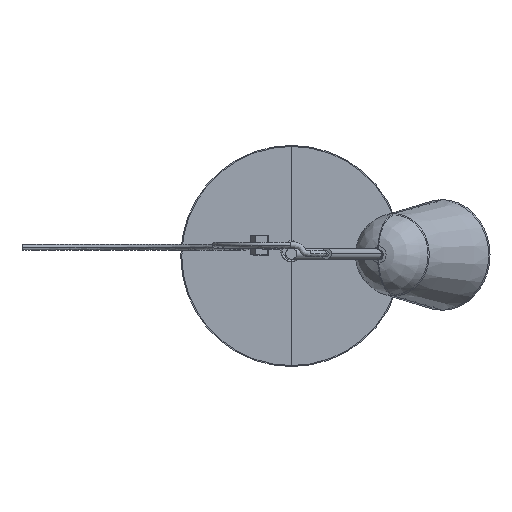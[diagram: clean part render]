
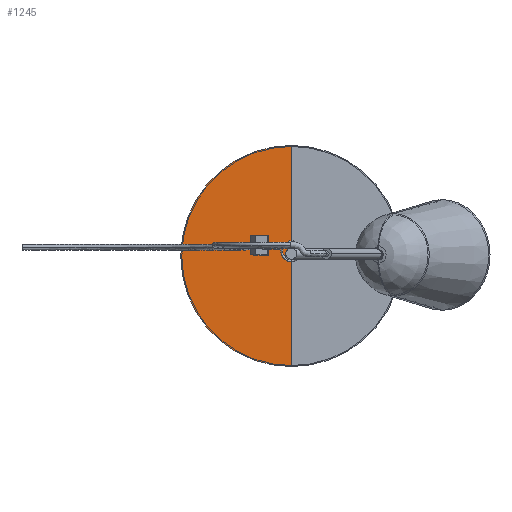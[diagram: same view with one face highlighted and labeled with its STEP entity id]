
A CAD part, top view. The second image highlights one B-rep face of the part: STEP entity #1245.
In plain terms, the highlighted planar face has unit normal (0, 0, 1).
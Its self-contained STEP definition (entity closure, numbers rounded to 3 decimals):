
#117=CIRCLE('',#1366,5.5);
#119=CIRCLE('',#1369,5.5);
#128=CIRCLE('',#1385,110.);
#212=LINE('',#63402,#280);
#213=LINE('',#63403,#281);
#280=VECTOR('',#1717,304.8);
#281=VECTOR('',#1718,304.8);
#321=PLANE('',#1387);
#405=FACE_OUTER_BOUND('',#492,.T.);
#492=EDGE_LOOP('',(#1147,#1148,#1149,#1150,#1151));
#629=VERTEX_POINT('',#63362);
#630=VERTEX_POINT('',#63364);
#631=VERTEX_POINT('',#63369);
#638=VERTEX_POINT('',#63394);
#639=VERTEX_POINT('',#63395);
#790=EDGE_CURVE('',#630,#629,#117,.T.);
#793=EDGE_CURVE('',#631,#630,#119,.T.);
#808=EDGE_CURVE('',#639,#638,#128,.T.);
#809=EDGE_CURVE('',#629,#639,#212,.T.);
#810=EDGE_CURVE('',#638,#631,#213,.T.);
#1147=ORIENTED_EDGE('',*,*,#808,.T.);
#1148=ORIENTED_EDGE('',*,*,#810,.T.);
#1149=ORIENTED_EDGE('',*,*,#793,.T.);
#1150=ORIENTED_EDGE('',*,*,#790,.T.);
#1151=ORIENTED_EDGE('',*,*,#809,.T.);
#1245=ADVANCED_FACE('',(#405),#321,.F.);
#1366=AXIS2_PLACEMENT_3D('',#63365,#1668,#1669);
#1369=AXIS2_PLACEMENT_3D('',#63370,#1675,#1676);
#1385=AXIS2_PLACEMENT_3D('',#63400,#1713,#1714);
#1387=AXIS2_PLACEMENT_3D('',#63404,#1719,#1720);
#1668=DIRECTION('center_axis',(0.,0.,-1.));
#1669=DIRECTION('ref_axis',(1.,0.,0.));
#1675=DIRECTION('center_axis',(0.,0.,-1.));
#1676=DIRECTION('ref_axis',(1.,0.,0.));
#1713=DIRECTION('center_axis',(0.,0.,1.));
#1714=DIRECTION('ref_axis',(0.,-1.,0.));
#1717=DIRECTION('',(0.,1.,0.));
#1718=DIRECTION('',(0.,1.,0.));
#1719=DIRECTION('center_axis',(0.,0.,-1.));
#1720=DIRECTION('ref_axis',(0.,-1.,0.));
#63362=CARTESIAN_POINT('',(0.,5.5,5.));
#63364=CARTESIAN_POINT('',(-5.5,0.,5.));
#63365=CARTESIAN_POINT('Origin',(0.,0.,
5.));
#63369=CARTESIAN_POINT('',(0.,-5.5,5.));
#63370=CARTESIAN_POINT('Origin',(0.,0.,
5.));
#63394=CARTESIAN_POINT('',(0.,-110.,5.));
#63395=CARTESIAN_POINT('',(0.,110.,5.));
#63400=CARTESIAN_POINT('Origin',(0.,0.,
5.));
#63402=CARTESIAN_POINT('',(0.,5.5,5.));
#63403=CARTESIAN_POINT('',(0.,-110.,5.));
#63404=CARTESIAN_POINT('Origin',(0.,0.,5.));
